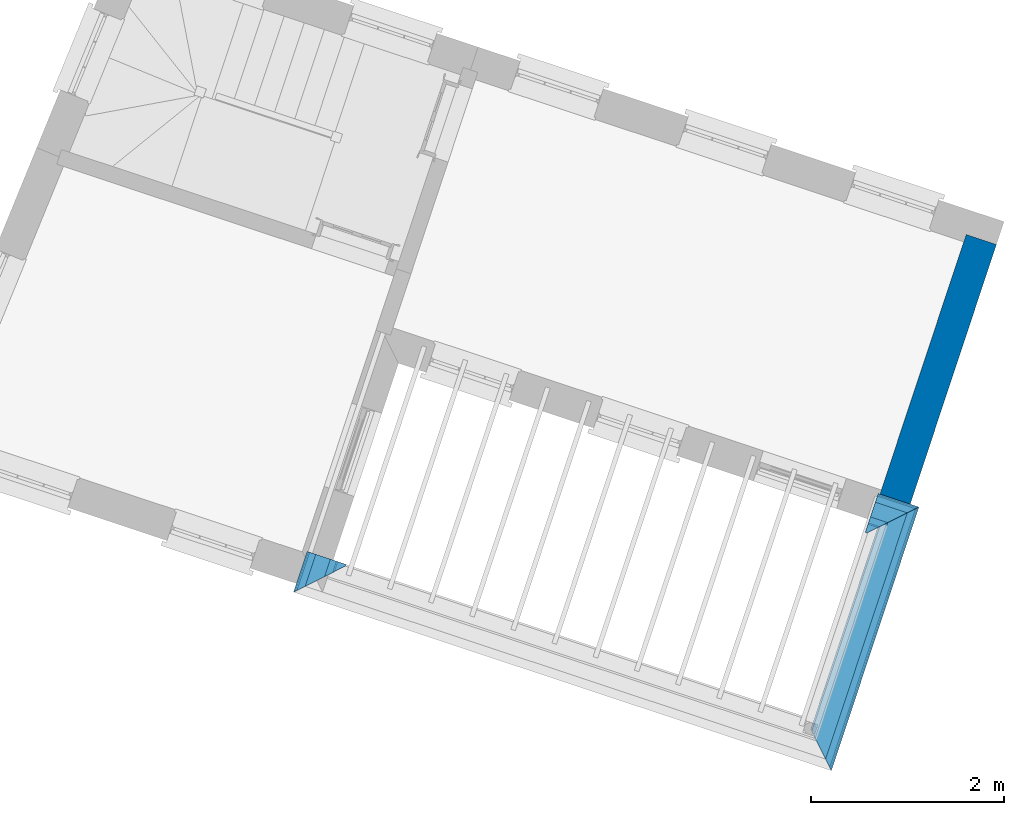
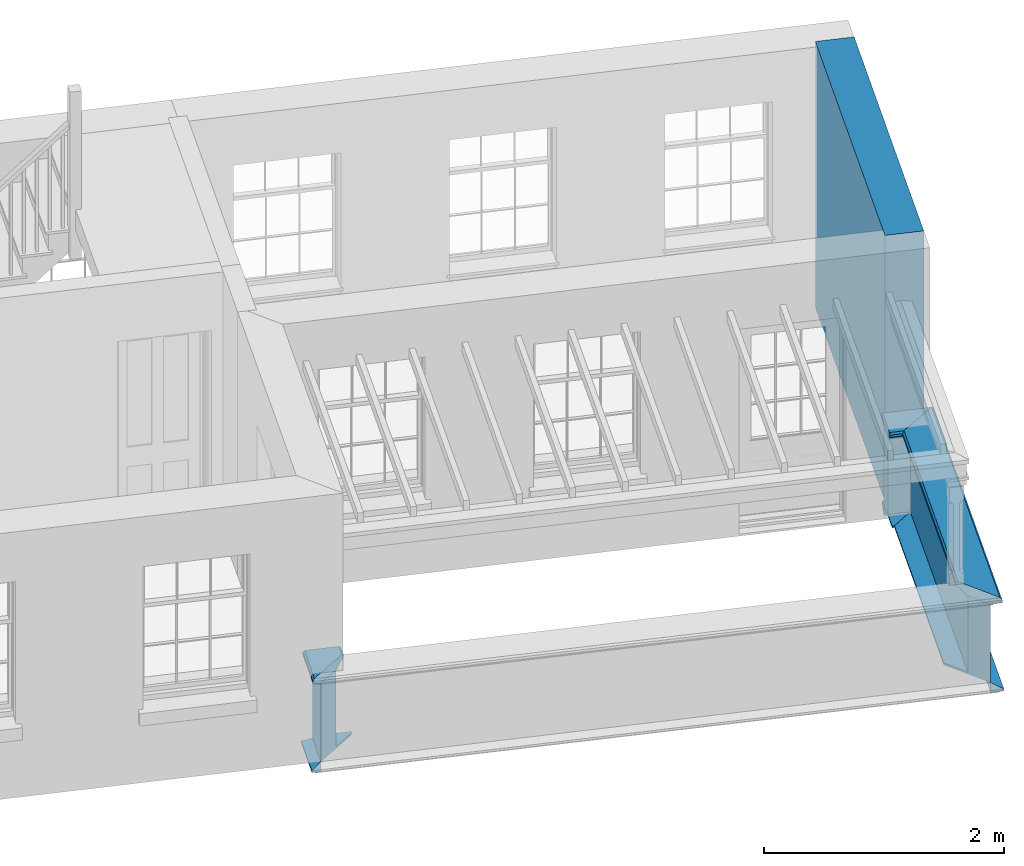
# One storey, part 5 of 6: 10 walls.
"""IFC4 building model written with IfcOpenShell, lengths in metres."""

from ifc_helpers import new_model, si_unit, frame, origin_with_axes, place, context, subcontext, project, spatial, polyline, outline, extrude, clip, halfspace, material, layer, layer_set, layer_usage, material_profile, profile_set, profile_usage, type_object, element, save


model = new_model("IFC4")

# Units and contexts
model_context = context("Model", 3, world=origin_with_axes())
body_context = subcontext(model_context, "Body", "Model", "MODEL_VIEW")
ifc_project = project(units=[si_unit("PLANEANGLEUNIT", "RADIAN"), si_unit("MASSUNIT", "GRAM", prefix="KILO"), si_unit("FORCEUNIT", "NEWTON", prefix="KILO"), si_unit("LENGTHUNIT", "METRE"), si_unit("AREAUNIT", "SQUARE_METRE"), si_unit("VOLUMEUNIT", "CUBIC_METRE")], contexts=[model_context, model_context])

# Sites, building, storey
site_1_placement = place(None, origin_with_axes())
site_1 = spatial("IfcSite", under=ifc_project, at=site_1_placement, Name="Tamar")
site_2_placement = place(site_1_placement, origin_with_axes())
site_2 = spatial("IfcSite", under=site_1, at=site_2_placement, Name="Site plot-16", CompositionType="ELEMENT")
building_placement = place(None, origin_with_axes())
building = spatial("IfcBuilding", under=site_2, at=building_placement, Name="Building plot-16", CompositionType="ELEMENT")
storey_placement = place(None, frame((0.0, 0.0, 29.45), z_axis=(0.0, 0.0, 1.0), x_axis=(1.0, 0.0, 0.0)))
storey = spatial("IfcBuildingStorey", under=building, at=storey_placement, Name="plot-16 1", CompositionType="ELEMENT", Elevation=29.45)

# Walls
ifc_material = material(Name="Masonry")
ifc_layer = layer(ifc_material, 0.33, ventilated=False)
ifc_layer_set = layer_set([ifc_layer], Name="party_0.08_0.25")
ifc_layer_usage = layer_usage(ifc_layer_set, "AXIS2", "POSITIVE", -0.25)
wall_type_1 = type_object("IfcWallType", Name="party_0.08_0.25", PredefinedType="SOLIDWALL", material=ifc_layer_set)
wall_1_placement = place(storey_placement, frame((262.324832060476, 294.09650192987, 0.0), z_axis=(0.0, 0.0, 1.0), x_axis=(0.315038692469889, 0.949078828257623, 0.0)))
element("IfcWall", 1, at=wall_1_placement, inside=storey, type_object=wall_type_1, material=ifc_layer_usage, Name="party", context=body_context, shape_type="SweptSolid", body=[
    extrude(outline(polyline([(2.14810527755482e-14, 0.0800000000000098), (-4.09251710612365e-15, -0.249999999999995), (2.87343196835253, -0.249999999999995), (2.87343196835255, 0.0800000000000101), (2.14810527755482e-14, 0.0800000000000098)])), origin_with_axes(), (0.0, 0.0, 1.0), 2.7),
])
ifc_material_profile_1 = material_profile(None, outline(polyline([(0.25, 0.0), (0.25, 0.795), (0.09, 0.795), (0.09, 0.02), (-0.08, 0.02), (-0.08, 0.0), (0.25, 0.0)])))
ifc_profile_set_1 = profile_set([ifc_material_profile_1])
ifc_profile_usage_1 = profile_usage(ifc_profile_set_1)
wall_type_2 = type_object("IfcWallType", Name="parapet_0", PredefinedType="PARAPET", material=ifc_profile_set_1)
wall_2_placement = place(storey_placement, frame((256.296907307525, 292.407879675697, 0.0), z_axis=(0.315038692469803, 0.949078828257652, 0.0), x_axis=(-0.949078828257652, 0.315038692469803, 0.0)))
element("IfcWall", 2, at=wall_2_placement, inside=storey, type_object=wall_type_2, material=ifc_profile_usage_1, Name="parapet_0", context=body_context, shape_type="Clipping", body=[
    clip(clip(extrude(outline(polyline([(0.25, 0.0), (0.25, 0.795), (0.09, 0.795), (0.09, 0.02), (-0.08, 0.02), (-0.08, 0.0), (0.25, 0.0)])), origin_with_axes(), (0.0, 0.0, 1.0), 2.10000000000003), halfspace(frame((0.0, 0.0, 1.10000000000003), z_axis=(-1.871297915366e-14, 0.0, -1.0), x_axis=(0.0, 1.0, 0.0)), True)), halfspace(frame((0.0, 0.0, 1.0), z_axis=(-0.707106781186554, 0.0, -0.707106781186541), x_axis=(0.0, 1.0, 0.0)), False)),
])
ifc_profile_usage_2 = profile_usage(ifc_profile_set_1)
wall_3_placement = place(storey_placement, frame((262.54220875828, 294.751366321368, 0.0), z_axis=(-0.315038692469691, -0.949078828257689, 0.0), x_axis=(0.949078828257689, -0.315038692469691, 0.0)))
element("IfcWall", 3, at=wall_3_placement, inside=storey, type_object=wall_type_2, material=ifc_profile_usage_2, Name="parapet_0", context=body_context, shape_type="Clipping", body=[
    clip(clip(extrude(outline(polyline([(0.25, 0.0), (0.25, 0.795), (0.09, 0.795), (0.09, 0.02), (-0.08, 0.02), (-0.08, 0.0), (0.25, 0.0)])), origin_with_axes(), (0.0, 0.0, 1.0), 4.19166516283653), halfspace(frame((0.0, 0.0, 3.19166516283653), z_axis=(0.707106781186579, 0.0, -0.707106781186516), x_axis=(0.0, 1.0, 0.0)), True)), halfspace(frame((0.0, 0.0, 1.0), z_axis=(-0.707106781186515, 0.0, -0.70710678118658), x_axis=(0.0, 1.0, 0.0)), False)),
])
ifc_profile_usage_3 = profile_usage(ifc_profile_set_1)
wall_4_placement = place(storey_placement, frame((261.183183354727, 294.148830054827, 0.0), z_axis=(0.949078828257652, -0.315038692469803, 0.0), x_axis=(0.315038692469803, 0.949078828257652, 0.0)))
element("IfcWall", 4, at=wall_4_placement, inside=storey, type_object=wall_type_2, material=ifc_profile_usage_3, Name="parapet_0", context=body_context, shape_type="Clipping", body=[
    clip(clip(extrude(outline(polyline([(0.25, 0.0), (0.25, 0.795), (0.09, 0.795), (0.09, 0.02), (-0.08, 0.02), (-0.08, 0.0), (0.25, 0.0)])), origin_with_axes(), (0.0, 0.0, 1.0), 2.10000000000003), halfspace(frame((0.0, 0.0, 1.10000000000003), z_axis=(0.707106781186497, 0.0, -0.707106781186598), x_axis=(0.0, 1.0, 0.0)), True)), halfspace(frame((0.0, 0.0, 1.0), z_axis=(-1.82688899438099e-14, 0.0, -1.0), x_axis=(0.0, 1.0, 0.0)), False)),
])
ifc_material_profile_2 = material_profile(None, outline(polyline([(0.265, 0.795), (0.268, 0.807), (0.274, 0.816), (0.283, 0.822), (0.295, 0.825), (0.295, 0.84), (0.305, 0.84), (0.317, 0.842), (0.326, 0.849), (0.333, 0.858), (0.335, 0.87), (0.333, 0.882), (0.326, 0.891), (0.317, 0.898), (0.305, 0.9), (0.035, 0.9), (0.023, 0.898), (0.014, 0.891), (0.007, 0.882), (0.005, 0.87), (0.007, 0.858), (0.014, 0.849), (0.023, 0.842), (0.035, 0.84), (0.045, 0.84), (0.045, 0.825), (0.057, 0.822), (0.066, 0.816), (0.072, 0.807), (0.075, 0.795), (0.265, 0.795)])))
ifc_profile_set_2 = profile_set([ifc_material_profile_2])
ifc_profile_usage_4 = profile_usage(ifc_profile_set_2)
wall_type_3 = type_object("IfcWallType", Name="parapet_1", PredefinedType="PARAPET", material=ifc_profile_set_2)
wall_5_placement = place(storey_placement, frame((256.296907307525, 292.407879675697, 0.0), z_axis=(0.315038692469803, 0.949078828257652, 0.0), x_axis=(-0.949078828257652, 0.315038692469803, 0.0)))
element("IfcWall", 5, at=wall_5_placement, inside=storey, type_object=wall_type_3, material=ifc_profile_usage_4, Name="parapet_1", context=body_context, shape_type="Clipping", body=[
    clip(clip(extrude(outline(polyline([(0.265, 0.795), (0.268, 0.807), (0.274, 0.816), (0.283, 0.822), (0.295, 0.825), (0.295, 0.84), (0.305, 0.84), (0.317, 0.842), (0.326, 0.849), (0.333, 0.858), (0.335, 0.87), (0.333, 0.882), (0.326, 0.891), (0.317, 0.898), (0.305, 0.9), (0.035, 0.9), (0.023, 0.898), (0.014, 0.891), (0.007, 0.882), (0.005, 0.87), (0.007, 0.858), (0.014, 0.849), (0.023, 0.842), (0.035, 0.84), (0.045, 0.84), (0.045, 0.825), (0.057, 0.822), (0.066, 0.816), (0.072, 0.807), (0.075, 0.795), (0.265, 0.795)])), origin_with_axes(), (0.0, 0.0, 1.0), 2.10000000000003), halfspace(frame((0.0, 0.0, 1.10000000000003), z_axis=(-1.871297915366e-14, 0.0, -1.0), x_axis=(0.0, 1.0, 0.0)), True)), halfspace(frame((0.0, 0.0, 1.0), z_axis=(-0.707106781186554, 0.0, -0.707106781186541), x_axis=(0.0, 1.0, 0.0)), False)),
])
ifc_profile_usage_5 = profile_usage(ifc_profile_set_2)
wall_6_placement = place(storey_placement, frame((262.54220875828, 294.751366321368, 0.0), z_axis=(-0.315038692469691, -0.949078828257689, 0.0), x_axis=(0.949078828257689, -0.315038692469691, 0.0)))
element("IfcWall", 6, at=wall_6_placement, inside=storey, type_object=wall_type_3, material=ifc_profile_usage_5, Name="parapet_1", context=body_context, shape_type="Clipping", body=[
    clip(clip(extrude(outline(polyline([(0.265, 0.795), (0.268, 0.807), (0.274, 0.816), (0.283, 0.822), (0.295, 0.825), (0.295, 0.84), (0.305, 0.84), (0.317, 0.842), (0.326, 0.849), (0.333, 0.858), (0.335, 0.87), (0.333, 0.882), (0.326, 0.891), (0.317, 0.898), (0.305, 0.9), (0.035, 0.9), (0.023, 0.898), (0.014, 0.891), (0.007, 0.882), (0.005, 0.87), (0.007, 0.858), (0.014, 0.849), (0.023, 0.842), (0.035, 0.84), (0.045, 0.84), (0.045, 0.825), (0.057, 0.822), (0.066, 0.816), (0.072, 0.807), (0.075, 0.795), (0.265, 0.795)])), origin_with_axes(), (0.0, 0.0, 1.0), 4.19166516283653), halfspace(frame((0.0, 0.0, 3.19166516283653), z_axis=(0.707106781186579, 0.0, -0.707106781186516), x_axis=(0.0, 1.0, 0.0)), True)), halfspace(frame((0.0, 0.0, 1.0), z_axis=(-0.707106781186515, 0.0, -0.70710678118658), x_axis=(0.0, 1.0, 0.0)), False)),
])
ifc_profile_usage_6 = profile_usage(ifc_profile_set_2)
wall_7_placement = place(storey_placement, frame((261.183183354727, 294.148830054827, 0.0), z_axis=(0.949078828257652, -0.315038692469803, 0.0), x_axis=(0.315038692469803, 0.949078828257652, 0.0)))
element("IfcWall", 7, at=wall_7_placement, inside=storey, type_object=wall_type_3, material=ifc_profile_usage_6, Name="parapet_1", context=body_context, shape_type="Clipping", body=[
    clip(clip(extrude(outline(polyline([(0.265, 0.795), (0.268, 0.807), (0.274, 0.816), (0.283, 0.822), (0.295, 0.825), (0.295, 0.84), (0.305, 0.84), (0.317, 0.842), (0.326, 0.849), (0.333, 0.858), (0.335, 0.87), (0.333, 0.882), (0.326, 0.891), (0.317, 0.898), (0.305, 0.9), (0.035, 0.9), (0.023, 0.898), (0.014, 0.891), (0.007, 0.882), (0.005, 0.87), (0.007, 0.858), (0.014, 0.849), (0.023, 0.842), (0.035, 0.84), (0.045, 0.84), (0.045, 0.825), (0.057, 0.822), (0.066, 0.816), (0.072, 0.807), (0.075, 0.795), (0.265, 0.795)])), origin_with_axes(), (0.0, 0.0, 1.0), 2.10000000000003), halfspace(frame((0.0, 0.0, 1.10000000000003), z_axis=(0.707106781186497, 0.0, -0.707106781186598), x_axis=(0.0, 1.0, 0.0)), True)), halfspace(frame((0.0, 0.0, 1.0), z_axis=(-1.82688899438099e-14, 0.0, -1.0), x_axis=(0.0, 1.0, 0.0)), False)),
])
ifc_material_profile_3 = material_profile(None, outline(polyline([(0.25, -0.1), (0.265, -0.1), (0.265, -0.085), (0.278, -0.084), (0.289, -0.081), (0.301, -0.074), (0.309, -0.065), (0.315, -0.055), (0.324, -0.044), (0.334, -0.038), (0.345, -0.035), (0.345, -0.015), (0.25, 0.0), (0.25, -0.1)])))
ifc_profile_set_3 = profile_set([ifc_material_profile_3])
ifc_profile_usage_7 = profile_usage(ifc_profile_set_3)
wall_type_4 = type_object("IfcWallType", Name="parapet_2", PredefinedType="PARAPET", material=ifc_profile_set_3)
wall_8_placement = place(storey_placement, frame((256.296907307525, 292.407879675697, 0.0), z_axis=(0.315038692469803, 0.949078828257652, 0.0), x_axis=(-0.949078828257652, 0.315038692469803, 0.0)))
element("IfcWall", 8, at=wall_8_placement, inside=storey, type_object=wall_type_4, material=ifc_profile_usage_7, Name="parapet_2", context=body_context, shape_type="Clipping", body=[
    clip(clip(extrude(outline(polyline([(0.25, -0.1), (0.265, -0.1), (0.265, -0.085), (0.278, -0.084), (0.289, -0.081), (0.301, -0.074), (0.309, -0.065), (0.315, -0.055), (0.324, -0.044), (0.334, -0.038), (0.345, -0.035), (0.345, -0.015), (0.25, 0.0), (0.25, -0.1)])), origin_with_axes(), (0.0, 0.0, 1.0), 2.10000000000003), halfspace(frame((0.0, 0.0, 1.10000000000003), z_axis=(-1.871297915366e-14, 0.0, -1.0), x_axis=(0.0, 1.0, 0.0)), True)), halfspace(frame((0.0, 0.0, 1.0), z_axis=(-0.707106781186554, 0.0, -0.707106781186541), x_axis=(0.0, 1.0, 0.0)), False)),
])
ifc_profile_usage_8 = profile_usage(ifc_profile_set_3)
wall_9_placement = place(storey_placement, frame((262.54220875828, 294.751366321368, 0.0), z_axis=(-0.315038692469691, -0.949078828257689, 0.0), x_axis=(0.949078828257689, -0.315038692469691, 0.0)))
element("IfcWall", 9, at=wall_9_placement, inside=storey, type_object=wall_type_4, material=ifc_profile_usage_8, Name="parapet_2", context=body_context, shape_type="Clipping", body=[
    clip(clip(extrude(outline(polyline([(0.25, -0.1), (0.265, -0.1), (0.265, -0.085), (0.278, -0.084), (0.289, -0.081), (0.301, -0.074), (0.309, -0.065), (0.315, -0.055), (0.324, -0.044), (0.334, -0.038), (0.345, -0.035), (0.345, -0.015), (0.25, 0.0), (0.25, -0.1)])), origin_with_axes(), (0.0, 0.0, 1.0), 4.19166516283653), halfspace(frame((0.0, 0.0, 3.19166516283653), z_axis=(0.707106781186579, 0.0, -0.707106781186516), x_axis=(0.0, 1.0, 0.0)), True)), halfspace(frame((0.0, 0.0, 1.0), z_axis=(-0.707106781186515, 0.0, -0.70710678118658), x_axis=(0.0, 1.0, 0.0)), False)),
])
ifc_profile_usage_9 = profile_usage(ifc_profile_set_3)
wall_10_placement = place(storey_placement, frame((261.183183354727, 294.148830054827, 0.0), z_axis=(0.949078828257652, -0.315038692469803, 0.0), x_axis=(0.315038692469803, 0.949078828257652, 0.0)))
element("IfcWall", 10, at=wall_10_placement, inside=storey, type_object=wall_type_4, material=ifc_profile_usage_9, Name="parapet_2", context=body_context, shape_type="Clipping", body=[
    clip(clip(extrude(outline(polyline([(0.25, -0.1), (0.265, -0.1), (0.265, -0.085), (0.278, -0.084), (0.289, -0.081), (0.301, -0.074), (0.309, -0.065), (0.315, -0.055), (0.324, -0.044), (0.334, -0.038), (0.345, -0.035), (0.345, -0.015), (0.25, 0.0), (0.25, -0.1)])), origin_with_axes(), (0.0, 0.0, 1.0), 2.10000000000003), halfspace(frame((0.0, 0.0, 1.10000000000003), z_axis=(0.707106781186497, 0.0, -0.707106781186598), x_axis=(0.0, 1.0, 0.0)), True)), halfspace(frame((0.0, 0.0, 1.0), z_axis=(-1.82688899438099e-14, 0.0, -1.0), x_axis=(0.0, 1.0, 0.0)), False)),
])

save(model, "model.ifc")
